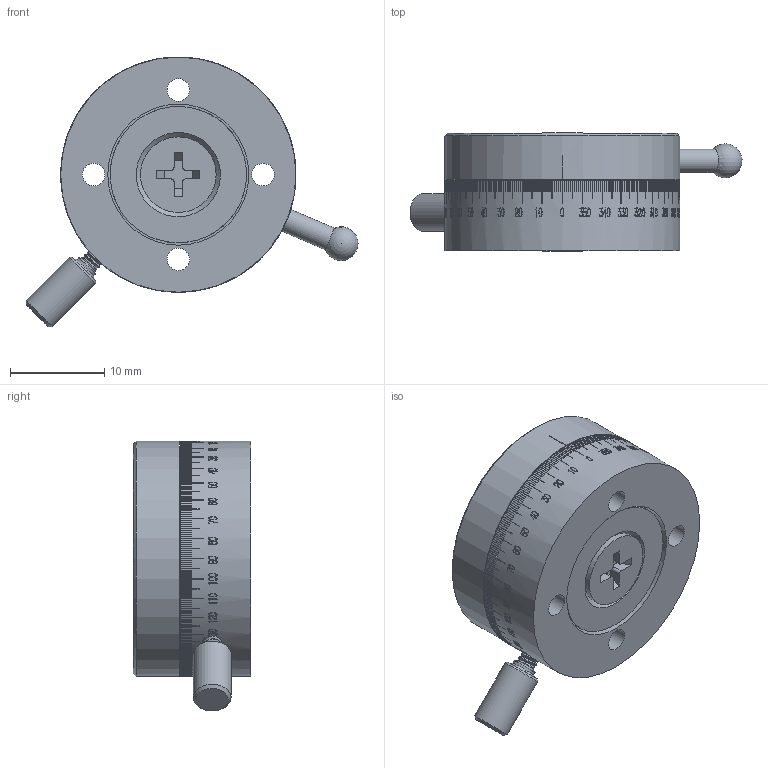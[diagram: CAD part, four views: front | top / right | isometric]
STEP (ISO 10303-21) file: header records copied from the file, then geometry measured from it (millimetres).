
FILE_DESCRIPTION (( 'STEP AP203' ), '1' );
FILE_NAME ('BER25.STEP', '2024-07-09T07:02:55', ( 'Windows User' ), ( 'P R C' ), 'SwSTEP 2.0', 'SolidWorks 2024', '' );
FILE_SCHEMA (( 'CONFIG_CONTROL_DESIGN' ));
Length unit declared in the file: millimetre
Products named in the file (1): BER25
Bounding box: 35.29 x 12.5 x 28.69 mm (x, y, z)
Volume: 5515.3 mm3; surface area: 5156.7 mm2
Topology: 7 solids, 7 shells, 1833 faces, 6542 edges, 4886 vertices
Faces by surface type: plane 1599, cylinder 202, cone 26, bspline 4, sphere 1, torus 1
Full cylindrical faces by diameter (mm): 1.6 x11, 2.4 x4, 2.5 x1, 2.528 x1, 3.3 x1, 4 x6, 4.3 x4, 4.5 x1, 8 x2, 8.04 x1, 10.4 x1, 11 x3, 11.1 x1, 14.5 x2, 15 x1, 22.2 x1, 25 x2
Entity records: 88641 total; most frequent: CARTESIAN_POINT 33863, ORIENTED_EDGE 12872, DIRECTION 9504, EDGE_CURVE 6436, VERTEX_POINT 4852, LINE 3978, VECTOR 3978, AXIS2_PLACEMENT_3D 2763
